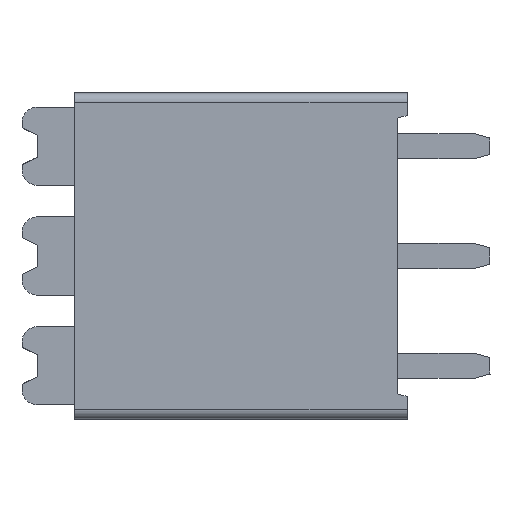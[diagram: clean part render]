
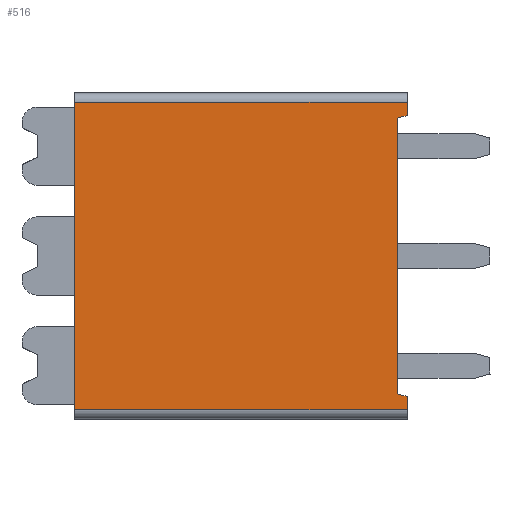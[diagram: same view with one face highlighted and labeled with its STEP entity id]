
A CAD part, left-side view. The second image highlights one B-rep face of the part: STEP entity #516.
In plain terms, the highlighted planar face has unit normal (-1, 0, 0).
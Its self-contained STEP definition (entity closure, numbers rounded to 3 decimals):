
#170 = CARTESIAN_POINT ( 'NONE',  ( -2.85, 10.6, -0.3 ) ) ;
#516 = ADVANCED_FACE ( 'NONE', ( #6373 ), #2271, .T. ) ;
#555 = EDGE_CURVE ( 'NONE', #9298, #1074, #3519, .T. ) ;
#638 = ORIENTED_EDGE ( 'NONE', *, *, #4377, .T. ) ;
#924 = VERTEX_POINT ( 'NONE', #4527 ) ;
#1074 = VERTEX_POINT ( 'NONE', #7206 ) ;
#1138 = CARTESIAN_POINT ( 'NONE',  ( -2.85, 0.3, -9.6 ) ) ;
#1495 = CARTESIAN_POINT ( 'NONE',  ( -2.85, 0., -9.68 ) ) ;
#1510 = VERTEX_POINT ( 'NONE', #2086 ) ;
#1587 = CARTESIAN_POINT ( 'NONE',  ( -2.85, 0., -6.95 ) ) ;
#1591 = DIRECTION ( 'NONE',  ( 0., 0., 1. ) ) ;
#1604 = LINE ( 'NONE', #1587, #9978 ) ;
#1679 = LINE ( 'NONE', #3887, #8819 ) ;
#1829 = LINE ( 'NONE', #5622, #9583 ) ;
#2086 = CARTESIAN_POINT ( 'NONE',  ( -2.85, 0., -10.1 ) ) ;
#2271 = PLANE ( 'NONE',  #9319 ) ;
#2305 = DIRECTION ( 'NONE',  ( 0., -0.966, 0.259 ) ) ;
#2307 = DIRECTION ( 'NONE',  ( 0., -1., 0. ) ) ;
#2372 = CARTESIAN_POINT ( 'NONE',  ( -2.85, 10.6, -6.95 ) ) ;
#2464 = DIRECTION ( 'NONE',  ( 0., 0.966, 0.259 ) ) ;
#2640 = LINE ( 'NONE', #7649, #3498 ) ;
#2710 = ORIENTED_EDGE ( 'NONE', *, *, #3212, .T. ) ;
#2980 = VECTOR ( 'NONE', #4275, 1000. ) ;
#3067 = DIRECTION ( 'NONE',  ( 0., 0., 1. ) ) ;
#3184 = CARTESIAN_POINT ( 'NONE',  ( -2.85, 0.3, -6.95 ) ) ;
#3212 = EDGE_CURVE ( 'NONE', #4694, #1510, #4086, .T. ) ;
#3284 = ORIENTED_EDGE ( 'NONE', *, *, #5666, .T. ) ;
#3498 = VECTOR ( 'NONE', #6096, 1000. ) ;
#3519 = LINE ( 'NONE', #6250, #8186 ) ;
#3640 = VECTOR ( 'NONE', #8880, 1000. ) ;
#3887 = CARTESIAN_POINT ( 'NONE',  ( -2.85, 0.3, -0.8 ) ) ;
#3925 = DIRECTION ( 'NONE',  ( -1., 0., 0. ) ) ;
#4069 = EDGE_LOOP ( 'NONE', ( #5648, #8043, #638, #3284, #8596, #6037, #7161, #2710 ) ) ;
#4086 = LINE ( 'NONE', #4204, #2980 ) ;
#4118 = VERTEX_POINT ( 'NONE', #1495 ) ;
#4130 = LINE ( 'NONE', #170, #3640 ) ;
#4204 = CARTESIAN_POINT ( 'NONE',  ( -2.85, 10.6, -10.1 ) ) ;
#4275 = DIRECTION ( 'NONE',  ( 0., -1., 0. ) ) ;
#4377 = EDGE_CURVE ( 'NONE', #4946, #9078, #8096, .T. ) ;
#4389 = EDGE_CURVE ( 'NONE', #4118, #4946, #1829, .T. ) ;
#4527 = CARTESIAN_POINT ( 'NONE',  ( -2.85, 10.6, -0.3 ) ) ;
#4694 = VERTEX_POINT ( 'NONE', #6044 ) ;
#4770 = DIRECTION ( 'NONE',  ( 0., 0., 1. ) ) ;
#4782 = CARTESIAN_POINT ( 'NONE',  ( -2.85, 0., -0.72 ) ) ;
#4946 = VERTEX_POINT ( 'NONE', #1138 ) ;
#5622 = CARTESIAN_POINT ( 'NONE',  ( -2.85, 0., -9.68 ) ) ;
#5648 = ORIENTED_EDGE ( 'NONE', *, *, #7400, .T. ) ;
#5666 = EDGE_CURVE ( 'NONE', #9078, #9298, #1679, .T. ) ;
#6037 = ORIENTED_EDGE ( 'NONE', *, *, #6441, .T. ) ;
#6044 = CARTESIAN_POINT ( 'NONE',  ( -2.85, 10.6, -10.1 ) ) ;
#6096 = DIRECTION ( 'NONE',  ( 0., 0., -1. ) ) ;
#6250 = CARTESIAN_POINT ( 'NONE',  ( -2.85, 0., -6.95 ) ) ;
#6373 = FACE_OUTER_BOUND ( 'NONE', #4069, .T. ) ;
#6441 = EDGE_CURVE ( 'NONE', #1074, #924, #4130, .T. ) ;
#6787 = VECTOR ( 'NONE', #1591, 1000. ) ;
#7161 = ORIENTED_EDGE ( 'NONE', *, *, #9925, .T. ) ;
#7206 = CARTESIAN_POINT ( 'NONE',  ( -2.85, 0., -0.3 ) ) ;
#7400 = EDGE_CURVE ( 'NONE', #1510, #4118, #1604, .T. ) ;
#7649 = CARTESIAN_POINT ( 'NONE',  ( -2.85, 10.6, -6.95 ) ) ;
#8043 = ORIENTED_EDGE ( 'NONE', *, *, #4389, .T. ) ;
#8096 = LINE ( 'NONE', #3184, #6787 ) ;
#8186 = VECTOR ( 'NONE', #3067, 1000. ) ;
#8596 = ORIENTED_EDGE ( 'NONE', *, *, #555, .T. ) ;
#8734 = CARTESIAN_POINT ( 'NONE',  ( -2.85, 0.3, -0.8 ) ) ;
#8819 = VECTOR ( 'NONE', #2305, 1000. ) ;
#8880 = DIRECTION ( 'NONE',  ( 0., 1., 0. ) ) ;
#9078 = VERTEX_POINT ( 'NONE', #8734 ) ;
#9298 = VERTEX_POINT ( 'NONE', #4782 ) ;
#9319 = AXIS2_PLACEMENT_3D ( 'NONE', #2372, #3925, #2307 ) ;
#9583 = VECTOR ( 'NONE', #2464, 1000. ) ;
#9925 = EDGE_CURVE ( 'NONE', #924, #4694, #2640, .T. ) ;
#9978 = VECTOR ( 'NONE', #4770, 1000. ) ;
